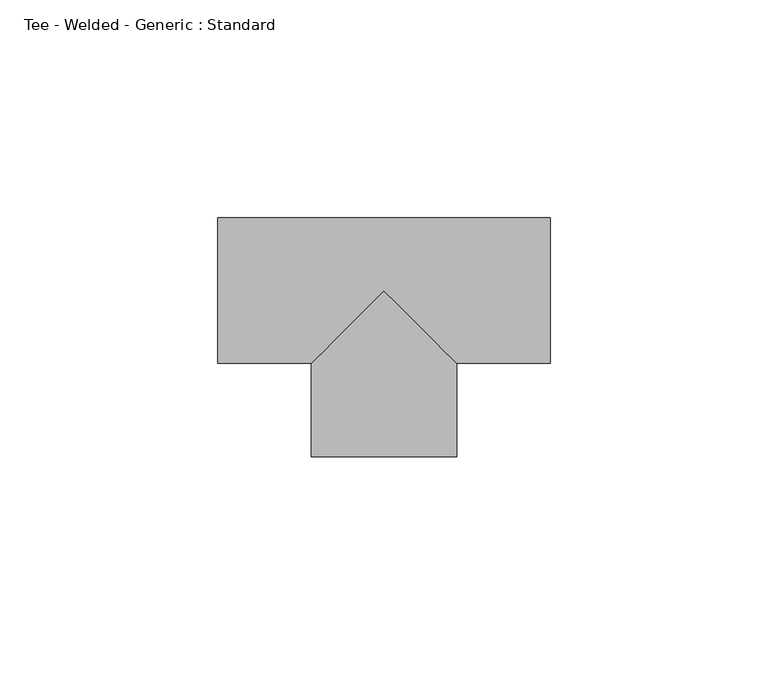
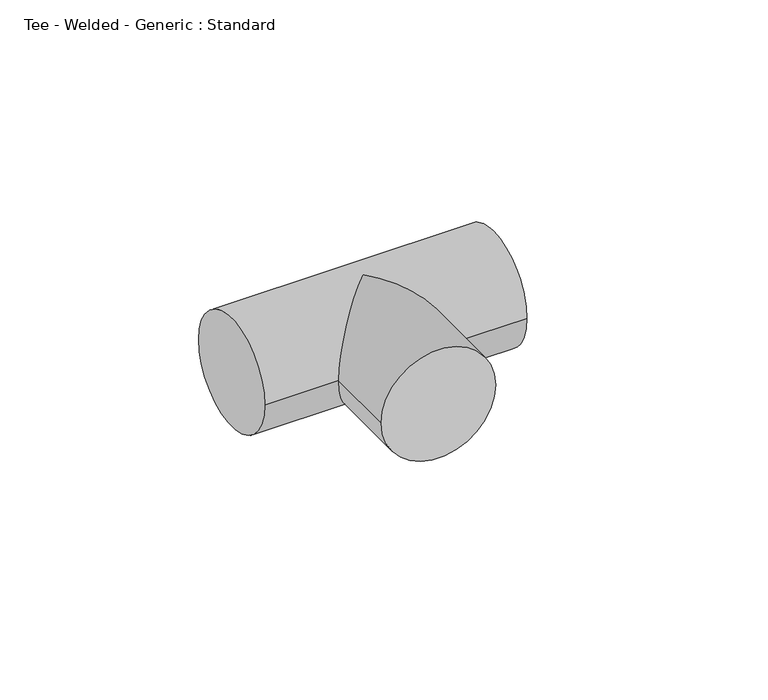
"""IFC4 building model written with IfcOpenShell, lengths in millimetres: pipe fitting geometry, Tee - Welded - Generic : Standard."""

from ifc_helpers import new_model, si_unit, frame, origin, place, context, project, spatial, circle_curve, ellipse_curve, source, transform, mapped, element, save
from ifc_brep_helpers import plane_surface, cylinder_surface, advanced_brep


def tee_welded_generic_standard_b39bf0d8(model_context):
    return source(origin(), model_context, "Body", "AdvancedBrep", [
        advanced_brep(
        [(-38.1, -16.66875, 0.0), (-38.1, 16.66875, 0.0), (38.1, -16.66875, 0.0), (38.1, 16.66875, 0.0), (-16.669274, -16.66875, 0.0), (0.0, 0.0, 16.66875), (16.668226, -16.66875, 0.0), (0.0, 0.0, -16.66875), (-16.6699477, -38.099476, 0.0), (16.6675523, -38.100524, 0.0)],
        [
            (0, 1, circle_curve(frame((-38.1, 0.0, 0.0), z_axis=(-1.0, 0.0, 0.0), x_axis=(0.0, 1.0, 0.0)), 16.66875)),
            (1, 0, circle_curve(frame((-38.1, 0.0, 0.0), z_axis=(-1.0, 0.0, 0.0), x_axis=(0.0, 1.0, 0.0)), 16.66875)),
            (2, 3, circle_curve(frame((38.1, 0.0, 0.0), z_axis=(1.0, 0.0, 0.0), x_axis=(0.0, 1.0, 0.0)), 16.66875)),
            (3, 2, circle_curve(frame((38.1, 0.0, 0.0), z_axis=(1.0, 0.0, 0.0), x_axis=(0.0, 1.0, 0.0)), 16.66875)),
            (0, 4),
            (4, 5, ellipse_curve(frame((0.0, 0.0, 0.0), z_axis=(-0.7070956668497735, 0.7071178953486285, 0.0), x_axis=(-0.7071178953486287, -0.7070956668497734, 0.0)), 23.5735428, 16.66875)),
            (5, 6, ellipse_curve(frame((0.0, 0.0, 0.0), z_axis=(0.7071178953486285, 0.7070956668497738, 0.0), x_axis=(-0.7070956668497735, 0.7071178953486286, 0.0)), 23.5728018, 16.66875)),
            (6, 2),
            (3, 1),
            (6, 7, ellipse_curve(frame((0.0, 0.0, 0.0), z_axis=(0.7071178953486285, 0.7070956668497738, 0.0), x_axis=(-0.7070956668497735, 0.7071178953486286, 0.0)), 23.5728018, 16.66875)),
            (7, 4, ellipse_curve(frame((0.0, 0.0, 0.0), z_axis=(-0.7070956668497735, 0.7071178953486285, 0.0), x_axis=(-0.7071178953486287, -0.7070956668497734, 0.0)), 23.5735428, 16.66875)),
            (8, 9, circle_curve(frame((-0.0011977, -38.1, 0.0), z_axis=(-3.143584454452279e-05, -0.9999999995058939, 0.0), x_axis=(0.9999999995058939, -3.143584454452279e-05, 0.0)), 16.66875)),
            (9, 8, circle_curve(frame((-0.0011977, -38.1, 0.0), z_axis=(-3.143584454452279e-05, -0.9999999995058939, 0.0), x_axis=(0.9999999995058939, -3.143584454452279e-05, 0.0)), 16.66875)),
            (9, 6),
            (4, 8),
        ],
        [
            plane_surface(frame((-38.1, 0.0, 0.0), z_axis=(-1.0, 0.0, 0.0), x_axis=(0.0, 0.0, 1.0))),
            plane_surface(frame((38.1, 0.0, 0.0), z_axis=(1.0, 0.0, 0.0), x_axis=(0.0, 0.0, 1.0))),
            cylinder_surface(frame((-38.1, 0.0, 0.0), z_axis=(-1.0, 0.0, 0.0), x_axis=(0.0, 1.0, 0.0)), 16.66875),
            plane_surface(frame((-0.0011977, -38.1, 0.0), z_axis=(-3.143584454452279e-05, -0.9999999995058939, 0.0), x_axis=(0.0, 0.0, 1.0))),
            cylinder_surface(frame((0.0, 0.0, 0.0), z_axis=(3.143584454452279e-05, 0.9999999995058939, 0.0), x_axis=(0.9999999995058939, -3.143584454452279e-05, 0.0)), 16.66875),
        ],
        [
            (0, [[1, 2]]),
            (1, [[3, 4]]),
            (2, [[-1, 5, 6, 7, 8, -4, 9]]),
            (2, [[-2, -9, -3, -8, 10, 11, -5]]),
            (3, [[12, 13]]),
            (4, [[-13, 14, -7, -6, 15]]),
            (4, [[-12, -15, -11, -10, -14]]),
        ],
    ),
    ])


if __name__ == "__main__":
    model = new_model("IFC4")
    model_context = context("Model", 3, world=origin())
    ifc_project = project(units=[si_unit("LENGTHUNIT", "METRE", prefix="MILLI")], contexts=[model_context])
    site = spatial("IfcSite", under=ifc_project)
    building = spatial("IfcBuilding", under=site)
    placement = place(None, origin())
    tee_welded_generic_standard_shape = tee_welded_generic_standard_b39bf0d8(model_context)
    element("IfcPipeFitting", 1, ObjectType="Tee - Welded - Generic : Standard", at=placement, inside=building, context=model_context, shape_type="MappedRepresentation", body=[
        mapped(tee_welded_generic_standard_shape, transform((0.0, 0.0, 0.0), x_axis=(1.0, 0.0, 0.0), y_axis=(0.0, 1.0, 0.0), z_axis=(0.0, 0.0, 1.0))),
    ])
    save(model, "model.ifc")
